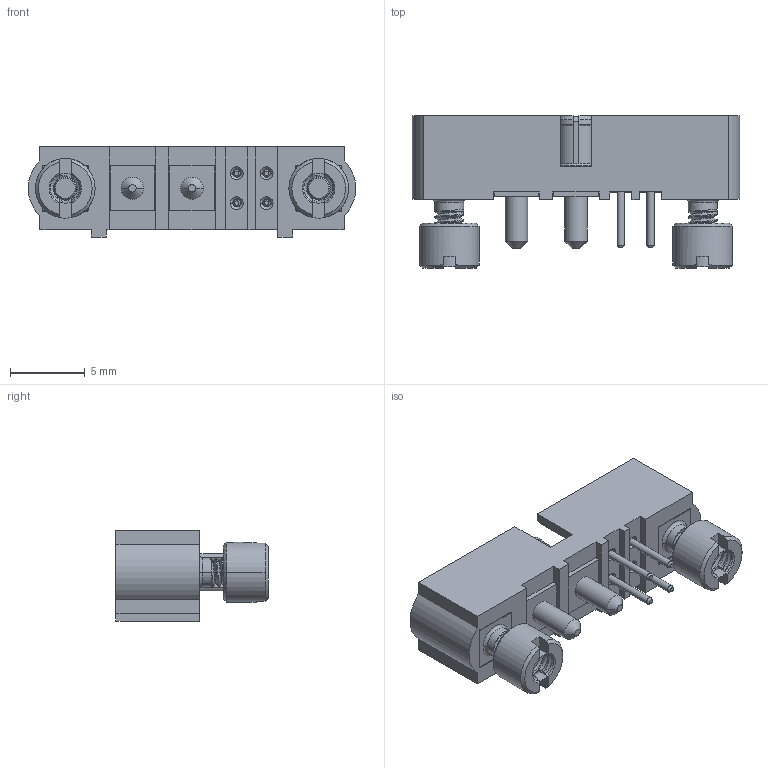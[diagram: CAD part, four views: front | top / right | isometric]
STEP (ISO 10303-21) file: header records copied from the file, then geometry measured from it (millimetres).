
FILE_DESCRIPTION((''),'2;1');
FILE_NAME('M80-5T10405M2-02-331-00-000_ASM','2010-10-06T',('smccullagh'),(''),'PRO/ENGINEER BY PARAMETRIC TECHNOLOGY CORPORATION, 2008490','PRO/ENGINEER BY PARAMETRIC TECHNOLOGY CORPORATION, 2008490','');
FILE_SCHEMA(('CONFIG_CONTROL_DESIGN'));
Length unit declared in the file: millimetre
Products named in the file (6): M80-271-02-04-00; M80-0200049; M80-331; M80-211; M80-213; M80-5T10405M2-02-331-00-000_ASM
Assembly tree (11 placements, depth 2):
  M80-5T10405M2-02-331-00-000_ASM
    M80-271-02-04-00
    M80-0200049  x4
    M80-331  x2
    M80-211  x2
    M80-213  x2
Bounding box: 22 x 10.2 x 6.05 mm (x, y, z)
Volume: 511.2 mm3; surface area: 1507.9 mm2
Topology: 11 solids, 17 shells, 584 faces, 1480 edges, 932 vertices
Faces by surface type: plane 200, cylinder 190, cone 102, bspline 88, torus 4
Entity records: 18761 total; most frequent: CARTESIAN_POINT 9779, ORIENTED_EDGE 1616, DIRECTION 1435, EDGE_CURVE 814, VERTEX_POINT 520, AXIS2_PLACEMENT_3D 515, PRESENTATION_STYLE_ASSIGNMENT 451, STYLED_ITEM 451
